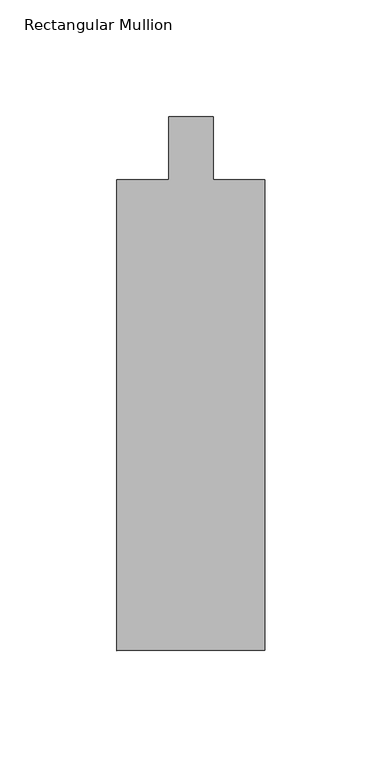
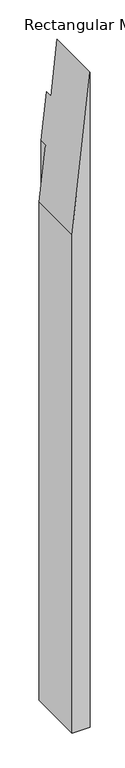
"""IFC4 building model written with IfcOpenShell, lengths in millimetres: member geometry."""

import ifcopenshell
import ifcopenshell.guid

model = None  # the IFC model being written
_history = None  # IfcOwnerHistory: only IFC2X3 demands one
_inside = {}  # id of a spatial element -> (the spatial element, [elements in it])
_under = {}  # id of a project, library or spatial element -> (it, [spatial elements below it])
_declared = {}  # id of a project -> (the project, [libraries it declares])
_typed = {}  # id of a type object -> (the type object, [elements of that type])
_made_of = {}  # id of a material, layer set ... -> (it, [elements and type objects made of it])


def new_model(schema):
    """Start an empty IFC model of exactly this schema.

    Asked for "IFC4X3", IfcOpenShell would pick the latest addendum, in which some entities
    have other attributes; the version numbers below select the first issue.
    IFC2X3 requires an IfcOwnerHistory on every rooted entity: one is made here for all.
    """
    global model, _history
    if schema == "IFC4X3":
        model = ifcopenshell.file(schema_version=(4, 3, 0, 0))
    else:
        model = ifcopenshell.file(schema=schema)
    _inside.clear()
    _under.clear()
    _declared.clear()
    _typed.clear()
    _made_of.clear()
    _history = None
    if model.schema == "IFC2X3":
        org = make("IfcOrganization", Name="unknown")
        user = make(
            "IfcPersonAndOrganization",
            ThePerson=make("IfcPerson", FamilyName="unknown"),
            TheOrganization=org,
        )
        app = make(
            "IfcApplication",
            ApplicationDeveloper=org,
            Version="unknown",
            ApplicationFullName="unknown",
            ApplicationIdentifier="unknown",
        )
        _history = make(
            "IfcOwnerHistory",
            OwningUser=user,
            OwningApplication=app,
            ChangeAction="ADDED",
            CreationDate=0,
        )
    return model


def make(cls, **values):
    """One entity of the class cls with the attributes given. An attribute that is None is left unset."""
    return model.create_entity(
        cls, **{name: value for name, value in values.items() if value is not None}
    )


def rooted(cls, **values):
    """An entity with a GlobalId (a new one), such as an element, a storey or a relation."""
    return make(cls, GlobalId=ifcopenshell.guid.new(), OwnerHistory=_history, **values)


def si_unit(unit_type, name, prefix=None):
    """IfcSIUnit, for example si_unit("LENGTHUNIT", "METRE", prefix="MILLI")."""
    return make("IfcSIUnit", UnitType=unit_type, Prefix=prefix, Name=name)


def assignment(units):
    """IfcUnitAssignment: the units of a project."""
    return None if units is None else make("IfcUnitAssignment", Units=units)


def point(xyz):
    """IfcCartesianPoint."""
    return None if xyz is None else make("IfcCartesianPoint", Coordinates=xyz)


def direction(xyz):
    """IfcDirection."""
    return None if xyz is None else make("IfcDirection", DirectionRatios=xyz)


def frame(location, z_axis=None, x_axis=None):
    """IfcAxis2Placement3D, a coordinate frame: its origin and axes. An axis left out is left unset."""
    return make(
        "IfcAxis2Placement3D",
        Location=point(location),
        Axis=direction(z_axis),
        RefDirection=direction(x_axis),
    )


def origin():
    """The frame at (0, 0, 0) with its axes left unset."""
    return frame((0.0, 0.0, 0.0))


def place(relative_to, where):
    """IfcLocalPlacement: puts the frame where relative to a parent placement (None: the world)."""
    return make(
        "IfcLocalPlacement", PlacementRelTo=relative_to, RelativePlacement=where
    )


def context(
    kind, dimensions, precision=None, world=None, true_north=None, identifier=None
):
    """IfcGeometricRepresentationContext, for example the 3D "Model" context."""
    return make(
        "IfcGeometricRepresentationContext",
        ContextIdentifier=identifier,
        ContextType=kind,
        CoordinateSpaceDimension=dimensions,
        Precision=precision,
        WorldCoordinateSystem=world,
        TrueNorth=true_north,
    )


def project(units=None, contexts=None):
    """IfcProject with its units and contexts."""
    return rooted(
        "IfcProject",
        Name="project",
        RepresentationContexts=contexts,
        UnitsInContext=assignment(units),
    )


def spatial(cls, under=None, at=None, **own):
    """A site, building, storey or space (cls), placed at a placement, below another one or the project."""
    s = rooted(cls, ObjectPlacement=at, **own)
    if under is not None:
        _under.setdefault(under.id(), (under, []))[1].append(s)
    return s


def faces_of(points, faces, orient=None, outer=None):
    """IfcFace entities. A face is a list of loops; a loop is a list of indices into points, from 0.

    orient and outer hold one flag for each loop. By default every Orientation is true, the
    first loop of a face is its IfcFaceOuterBound and the others are IfcFaceBound.
    """
    made = []
    for i, loops in enumerate(faces):
        bounds = []
        for j, loop in enumerate(loops):
            is_outer = j == 0 if outer is None else outer[i][j]
            bounds.append(
                make(
                    "IfcFaceOuterBound" if is_outer else "IfcFaceBound",
                    Bound=make("IfcPolyLoop", Polygon=[points[k] for k in loop]),
                    Orientation=True if orient is None else orient[i][j],
                )
            )
        made.append(make("IfcFace", Bounds=bounds))
    return made


def faceted_brep(points, faces, orient=None, outer=None, voids=None):
    """IfcFacetedBrep: a solid bounded by flat faces; with voids (closed shells), ...WithVoids."""
    shared = [point(p) for p in points]
    hull = make("IfcClosedShell", CfsFaces=faces_of(shared, faces, orient, outer))
    if voids is None:
        return make("IfcFacetedBrep", Outer=hull)
    return make(
        "IfcFacetedBrepWithVoids",
        Outer=hull,
        Voids=[
            make(cls, CfsFaces=faces_of(shared, fs, o, b)) for cls, fs, o, b in voids
        ],
    )


def shape(context_of_items, identifier, shape_type, items):
    """IfcShapeRepresentation: the items that make up one representation, for example the "Body"."""
    return make(
        "IfcShapeRepresentation",
        ContextOfItems=context_of_items,
        RepresentationIdentifier=identifier,
        RepresentationType=shape_type,
        Items=items,
    )


def source(mapping_origin, context_of_items, identifier, shape_type, items):
    """IfcRepresentationMap: a shape defined once, which mapped items show again and again."""
    return make(
        "IfcRepresentationMap",
        MappingOrigin=mapping_origin,
        MappedRepresentation=shape(context_of_items, identifier, shape_type, items),
    )


def transform(
    local_origin,
    x_axis=None,
    y_axis=None,
    z_axis=None,
    scale=None,
    scale2=None,
    scale3=None,
    uniform=True,
):
    """IfcCartesianTransformationOperator3D, or its non-uniform kind. x_axis, y_axis, z_axis: its Axis1, 2, 3."""
    if uniform:
        return make(
            "IfcCartesianTransformationOperator3D",
            Axis1=direction(x_axis),
            Axis2=direction(y_axis),
            LocalOrigin=point(local_origin),
            Scale=scale,
            Axis3=direction(z_axis),
        )
    return make(
        "IfcCartesianTransformationOperator3DnonUniform",
        Axis1=direction(x_axis),
        Axis2=direction(y_axis),
        LocalOrigin=point(local_origin),
        Scale=scale,
        Axis3=direction(z_axis),
        Scale2=scale2,
        Scale3=scale3,
    )


def mapped(mapping_source, mapping_target):
    """IfcMappedItem: shows the shape of a source again, moved by a transform."""
    return make(
        "IfcMappedItem", MappingSource=mapping_source, MappingTarget=mapping_target
    )


def made_of(thing, what):
    """Note that an element or type object is made of a material, layer set ...; save() writes the relation."""
    if what is not None:
        _made_of.setdefault(what.id(), (what, []))[1].append(thing)
    return thing


def element(
    cls,
    number,
    at=None,
    inside=None,
    cuts=None,
    type_object=None,
    material=None,
    context=None,
    identifier="Body",
    shape_type=None,
    held_by="IfcProductDefinitionShape",
    body=None,
    shapes=None,
    **own,
):
    """One element of the class cls, such as IfcWall. Its Tag is "e" and its number.

    at: its placement. inside: the storey or other place that contains it. cuts: it is an
    opening in that element (IfcRelVoidsElement). A single representation is given by context,
    identifier, shape_type and body (its items); several are given by shapes. held_by: the class
    of the entity that holds the representations. save() writes the other relations.
    """
    e = rooted(cls, Tag="e%d" % number, ObjectPlacement=at, **own)
    if body is not None:
        shapes = [shape(context, identifier, shape_type, body)]
    if shapes is not None:
        e.Representation = make(held_by, Representations=shapes)
    if inside is not None:
        _inside.setdefault(inside.id(), (inside, []))[1].append(e)
    if cuts is not None:
        rooted(
            "IfcRelVoidsElement", RelatingBuildingElement=cuts, RelatedOpeningElement=e
        )
    if type_object is not None:
        _typed.setdefault(type_object.id(), (type_object, []))[1].append(e)
    return made_of(e, material)


def aggregate(whole, parts):
    """IfcRelAggregates: a whole, such as a stair, and the parts it consists of."""
    return rooted("IfcRelAggregates", RelatingObject=whole, RelatedObjects=parts)


def save(model, path):
    """Write the relations noted so far, then the file.

    IfcRelAggregates (storeys below a building ...), IfcRelContainedInSpatialStructure (elements
    in a storey), IfcRelDefinesByType, IfcRelAssociatesMaterial and IfcRelDeclares: one each for
    every whole, place, type object, material and project.
    """
    for whole, parts in _under.values():
        aggregate(whole, parts)
    for where, things in _inside.values():
        rooted(
            "IfcRelContainedInSpatialStructure",
            RelatedElements=things,
            RelatingStructure=where,
        )
    for kind, things in _typed.values():
        rooted("IfcRelDefinesByType", RelatedObjects=things, RelatingType=kind)
    for what, things in _made_of.values():
        rooted("IfcRelAssociatesMaterial", RelatedObjects=things, RelatingMaterial=what)
    for by, libraries in _declared.values():
        rooted("IfcRelDeclares", RelatingContext=by, RelatedDefinitions=libraries)
    model.write(path)


def rectangular_mullion_0d3e171c(model_context):
    return source(origin(), model_context, "Body", "Brep", [
        faceted_brep([(0.0, -26.9875, 0.0), (0.0, -228.6, 0.0), (0.0, -228.6, -2436.6855043), (0.0, -26.9875, -2436.6855043), (-22.225, -26.9875, -204.5782897), (-22.225, -26.9875, -2436.6855043), (-22.225, 0.0, -204.5782897), (-22.225, 0.0, -2436.6855043), (-41.275, 0.0, -379.9311094), (-41.275, 0.0, -2436.6855043), (-41.275, -26.9875, -379.9311094), (-41.275, -26.9875, -2436.6855043), (-63.5, -26.9875, -584.509399), (-63.5, -26.9875, -2436.6855043), (-63.5, -228.6, -584.509399), (-63.5, -228.6, -2436.6855043)], [[[0, 1, 2, 3]], [[4, 0, 3, 5]], [[6, 4, 5, 7]], [[8, 6, 7, 9]], [[10, 8, 9, 11]], [[12, 10, 11, 13]], [[14, 12, 13, 15]], [[1, 14, 15, 2]], [[1, 0, 4, 6, 8, 10, 12, 14]], [[2, 15, 13, 11, 9, 7, 5, 3]]]),
    ])


if __name__ == "__main__":
    model = new_model("IFC4")
    model_context = context("Model", 3, world=origin())
    ifc_project = project(units=[si_unit("LENGTHUNIT", "METRE", prefix="MILLI")], contexts=[model_context])
    site = spatial("IfcSite", under=ifc_project)
    building = spatial("IfcBuilding", under=site)
    placement = place(None, origin())
    rectangular_mullion_shape = rectangular_mullion_0d3e171c(model_context)
    element("IfcMember", 1, ObjectType="Rectangular Mullion : 2 1/2\" x 8\" - Capless", at=placement, inside=building, context=model_context, shape_type="MappedRepresentation", body=[
        mapped(rectangular_mullion_shape, transform((0.0, 0.0, 0.0), x_axis=(1.0, 0.0, 0.0), y_axis=(0.0, 1.0, 0.0), z_axis=(0.0, 0.0, 1.0))),
    ])
    save(model, "model.ifc")
